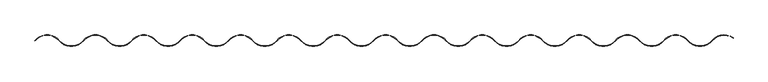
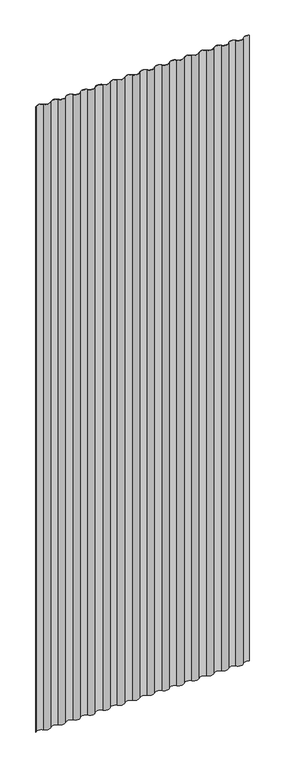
"""IFC4 building model written with IfcOpenShell, lengths in millimetres: plate geometry, HIANSA- H20.F08.001-CHAPA PERFILADA CUBIERTA - MO18 - Panel de Muro Cortina : -."""

from ifc_helpers import new_model, si_unit, point, frame_2d, origin, origin_with_axes, place, context, project, spatial, polyline, circle_curve, trimmed, segment, composite_curve, outline, extrude, source, transform, mapped, element, save


def plate_054f46e9(model_context):
    return source(origin(), model_context, "Body", "SweptSolid", [
        extrude(outline(composite_curve([segment(trimmed(circle_curve(frame_2d((-304.0000002, -7.4030474)), 25.4), [point((-323.2300002, 9.1911413))], [point((-284.7700002, 9.1911413))], False, "CARTESIAN"), True, "CONTINUOUS"), segment(trimmed(circle_curve(frame_2d((-266.0000002, 25.4)), 24.8), [point((-284.7700002, 9.1911413))], [point((-247.2300002, 9.1911413))], True, "CARTESIAN"), True, "CONTINUOUS"), segment(trimmed(circle_curve(frame_2d((-228.0000002, -7.4030474)), 25.4), [point((-247.2300002, 9.1911413))], [point((-208.7700002, 9.1911413))], False, "CARTESIAN"), True, "CONTINUOUS"), segment(trimmed(circle_curve(frame_2d((-190.0000002, 25.4)), 24.8), [point((-208.7700002, 9.1911413))], [point((-171.2300002, 9.1911413))], True, "CARTESIAN"), True, "CONTINUOUS"), segment(trimmed(circle_curve(frame_2d((-152.0000002, -7.4030474)), 25.4), [point((-171.2300002, 9.1911413))], [point((-132.7700002, 9.1911413))], False, "CARTESIAN"), True, "CONTINUOUS"), segment(trimmed(circle_curve(frame_2d((-114.0000002, 25.4)), 24.8), [point((-132.7700002, 9.1911413))], [point((-95.2300002, 9.1911413))], True, "CARTESIAN"), True, "CONTINUOUS"), segment(trimmed(circle_curve(frame_2d((-76.0000002, -7.4030474)), 25.4), [point((-95.2300002, 9.1911413))], [point((-56.7700002, 9.1911413))], False, "CARTESIAN"), True, "CONTINUOUS"), segment(trimmed(circle_curve(frame_2d((-38.0000002, 25.4)), 24.8), [point((-56.7700002, 9.1911413))], [point((-19.2300002, 9.1911413))], True, "CARTESIAN"), True, "CONTINUOUS"), segment(trimmed(circle_curve(frame_2d((-2e-07, -7.4030474)), 25.4), [point((-19.2300002, 9.1911413))], [point((19.2299998, 9.1911413))], False, "CARTESIAN"), True, "CONTINUOUS"), segment(trimmed(circle_curve(frame_2d((37.9999998, 25.4)), 24.8), [point((19.2299998, 9.1911413))], [point((56.7699998, 9.1911413))], True, "CARTESIAN"), True, "CONTINUOUS"), segment(trimmed(circle_curve(frame_2d((75.9999998, -7.4030474)), 25.4), [point((56.7699998, 9.1911413))], [point((95.2299998, 9.1911413))], False, "CARTESIAN"), True, "CONTINUOUS"), segment(trimmed(circle_curve(frame_2d((113.9999998, 25.4)), 24.8), [point((95.2299998, 9.1911413))], [point((132.7699998, 9.1911413))], True, "CARTESIAN"), True, "CONTINUOUS"), segment(trimmed(circle_curve(frame_2d((151.9999998, -7.4030474)), 25.4), [point((132.7699998, 9.1911413))], [point((171.2299998, 9.1911413))], False, "CARTESIAN"), True, "CONTINUOUS"), segment(trimmed(circle_curve(frame_2d((189.9999998, 25.4)), 24.8), [point((171.2299998, 9.1911413))], [point((208.7699998, 9.1911413))], True, "CARTESIAN"), True, "CONTINUOUS"), segment(trimmed(circle_curve(frame_2d((227.9999998, -7.4030474)), 25.4), [point((208.7699998, 9.1911413))], [point((247.2299998, 9.1911413))], False, "CARTESIAN"), True, "CONTINUOUS"), segment(trimmed(circle_curve(frame_2d((265.9999998, 25.4)), 24.8), [point((247.2299998, 9.1911413))], [point((284.7699998, 9.1911413))], True, "CARTESIAN"), True, "CONTINUOUS"), segment(trimmed(circle_curve(frame_2d((303.9999998, -7.4030474)), 25.4), [point((284.7699998, 9.1911413))], [point((323.2299998, 9.1911413))], False, "CARTESIAN"), True, "CONTINUOUS"), segment(trimmed(circle_curve(frame_2d((341.9999998, 25.4)), 24.8), [point((323.2299998, 9.1911413))], [point((360.7699998, 9.1911413))], True, "CARTESIAN"), True, "CONTINUOUS"), segment(trimmed(circle_curve(frame_2d((379.9999998, -7.4030474)), 25.4), [point((360.7699998, 9.1911413))], [point((399.2299998, 9.1911413))], False, "CARTESIAN"), True, "CONTINUOUS"), segment(trimmed(circle_curve(frame_2d((417.9999998, 25.4)), 24.8), [point((399.2299998, 9.1911413))], [point((436.7699998, 9.1911413))], True, "CARTESIAN"), True, "CONTINUOUS"), segment(trimmed(circle_curve(frame_2d((455.9999998, -7.4030474)), 25.4), [point((436.7699998, 9.1911413))], [point((475.2299998, 9.1911413))], False, "CARTESIAN"), True, "CONTINUOUS"), segment(trimmed(circle_curve(frame_2d((493.9999998, 25.4)), 24.8), [point((475.2299998, 9.1911413))], [point((512.7699998, 9.1911413))], True, "CARTESIAN"), True, "CONTINUOUS"), segment(trimmed(circle_curve(frame_2d((531.9999998, -7.4030474)), 25.4), [point((512.7699998, 9.1911413))], [point((546.0000002, 13.7903476))], False, "CARTESIAN"), True, "CONTINUOUS"), segment(polyline([(546.0000002, 13.7903476), (546.0000002, 13.0674189)]), True, "CONTINUOUS"), segment(trimmed(circle_curve(frame_2d((531.9999998, -7.4030474)), 24.8), [point((546.0000002, 13.0674189))], [point((513.2299998, 8.8058113))], True, "CARTESIAN"), True, "CONTINUOUS"), segment(trimmed(circle_curve(frame_2d((493.9999998, 25.4)), 25.4), [point((513.2299998, 8.8058113))], [point((474.7699998, 8.8058113))], False, "CARTESIAN"), True, "CONTINUOUS"), segment(trimmed(circle_curve(frame_2d((455.9999998, -7.4030474)), 24.8), [point((474.7699998, 8.8058113))], [point((437.2299998, 8.8058113))], True, "CARTESIAN"), True, "CONTINUOUS"), segment(trimmed(circle_curve(frame_2d((417.9999998, 25.4)), 25.4), [point((437.2299998, 8.8058113))], [point((398.7699998, 8.8058113))], False, "CARTESIAN"), True, "CONTINUOUS"), segment(trimmed(circle_curve(frame_2d((379.9999998, -7.4030474)), 24.8), [point((398.7699998, 8.8058113))], [point((361.2299998, 8.8058113))], True, "CARTESIAN"), True, "CONTINUOUS"), segment(trimmed(circle_curve(frame_2d((341.9999998, 25.4)), 25.4), [point((361.2299998, 8.8058113))], [point((322.7699998, 8.8058113))], False, "CARTESIAN"), True, "CONTINUOUS"), segment(trimmed(circle_curve(frame_2d((303.9999998, -7.4030474)), 24.8), [point((322.7699998, 8.8058113))], [point((285.2299998, 8.8058113))], True, "CARTESIAN"), True, "CONTINUOUS"), segment(trimmed(circle_curve(frame_2d((265.9999998, 25.4)), 25.4), [point((285.2299998, 8.8058113))], [point((246.7699998, 8.8058113))], False, "CARTESIAN"), True, "CONTINUOUS"), segment(trimmed(circle_curve(frame_2d((227.9999998, -7.4030474)), 24.8), [point((246.7699998, 8.8058113))], [point((209.2299998, 8.8058113))], True, "CARTESIAN"), True, "CONTINUOUS"), segment(trimmed(circle_curve(frame_2d((189.9999998, 25.4)), 25.4), [point((209.2299998, 8.8058113))], [point((170.7699998, 8.8058113))], False, "CARTESIAN"), True, "CONTINUOUS"), segment(trimmed(circle_curve(frame_2d((151.9999998, -7.4030474)), 24.8), [point((170.7699998, 8.8058113))], [point((133.2299998, 8.8058113))], True, "CARTESIAN"), True, "CONTINUOUS"), segment(trimmed(circle_curve(frame_2d((113.9999998, 25.4)), 25.4), [point((133.2299998, 8.8058113))], [point((94.7699998, 8.8058113))], False, "CARTESIAN"), True, "CONTINUOUS"), segment(trimmed(circle_curve(frame_2d((75.9999998, -7.4030474)), 24.8), [point((94.7699998, 8.8058113))], [point((57.2299998, 8.8058113))], True, "CARTESIAN"), True, "CONTINUOUS"), segment(trimmed(circle_curve(frame_2d((37.9999998, 25.4)), 25.4), [point((57.2299998, 8.8058113))], [point((18.7699998, 8.8058113))], False, "CARTESIAN"), True, "CONTINUOUS"), segment(trimmed(circle_curve(frame_2d((-2e-07, -7.4030474)), 24.8), [point((18.7699998, 8.8058113))], [point((-18.7700002, 8.8058113))], True, "CARTESIAN"), True, "CONTINUOUS"), segment(trimmed(circle_curve(frame_2d((-38.0000002, 25.4)), 25.4), [point((-18.7700002, 8.8058113))], [point((-57.2300002, 8.8058113))], False, "CARTESIAN"), True, "CONTINUOUS"), segment(trimmed(circle_curve(frame_2d((-76.0000002, -7.4030474)), 24.8), [point((-57.2300002, 8.8058113))], [point((-94.7700002, 8.8058113))], True, "CARTESIAN"), True, "CONTINUOUS"), segment(trimmed(circle_curve(frame_2d((-114.0000002, 25.4)), 25.4), [point((-94.7700002, 8.8058113))], [point((-133.2300002, 8.8058113))], False, "CARTESIAN"), True, "CONTINUOUS"), segment(trimmed(circle_curve(frame_2d((-152.0000002, -7.4030474)), 24.8), [point((-133.2300002, 8.8058113))], [point((-170.7700002, 8.8058113))], True, "CARTESIAN"), True, "CONTINUOUS"), segment(trimmed(circle_curve(frame_2d((-190.0000002, 25.4)), 25.4), [point((-170.7700002, 8.8058113))], [point((-209.2300002, 8.8058113))], False, "CARTESIAN"), True, "CONTINUOUS"), segment(trimmed(circle_curve(frame_2d((-228.0000002, -7.4030474)), 24.8), [point((-209.2300002, 8.8058113))], [point((-246.7700002, 8.8058113))], True, "CARTESIAN"), True, "CONTINUOUS"), segment(trimmed(circle_curve(frame_2d((-266.0000002, 25.4)), 25.4), [point((-246.7700002, 8.8058113))], [point((-285.2300002, 8.8058113))], False, "CARTESIAN"), True, "CONTINUOUS"), segment(trimmed(circle_curve(frame_2d((-304.0000002, -7.4030474)), 24.8), [point((-285.2300002, 8.8058113))], [point((-322.7700002, 8.8058113))], True, "CARTESIAN"), True, "CONTINUOUS"), segment(trimmed(circle_curve(frame_2d((-342.0000002, 25.4)), 25.4), [point((-322.7700002, 8.8058113))], [point((-361.2300002, 8.8058113))], False, "CARTESIAN"), True, "CONTINUOUS"), segment(trimmed(circle_curve(frame_2d((-380.0000002, -7.4030474)), 24.8), [point((-361.2300002, 8.8058113))], [point((-398.7700002, 8.8058113))], True, "CARTESIAN"), True, "CONTINUOUS"), segment(trimmed(circle_curve(frame_2d((-418.0000002, 25.4)), 25.4), [point((-398.7700002, 8.8058113))], [point((-437.2300002, 8.8058113))], False, "CARTESIAN"), True, "CONTINUOUS"), segment(trimmed(circle_curve(frame_2d((-456.0000002, -7.4030474)), 24.8), [point((-437.2300002, 8.8058113))], [point((-474.7700002, 8.8058113))], True, "CARTESIAN"), True, "CONTINUOUS"), segment(trimmed(circle_curve(frame_2d((-494.0000002, 25.4)), 25.4), [point((-474.7700002, 8.8058113))], [point((-513.2300002, 8.8058113))], False, "CARTESIAN"), True, "CONTINUOUS"), segment(trimmed(circle_curve(frame_2d((-532.0000002, -7.4030474)), 24.8), [point((-513.2300002, 8.8058113))], [point((-550.293813, 9.3413968))], True, "CARTESIAN"), True, "CONTINUOUS"), segment(polyline([(-550.293813, 9.3413968), (-551.2300002, 9.1911413)]), True, "CONTINUOUS"), segment(trimmed(circle_curve(frame_2d((-532.0000002, -7.4030474)), 25.4), [point((-551.2300002, 9.1911413))], [point((-512.7700002, 9.1911413))], False, "CARTESIAN"), True, "CONTINUOUS"), segment(trimmed(circle_curve(frame_2d((-494.0000002, 25.4)), 24.8), [point((-512.7700002, 9.1911413))], [point((-475.2300002, 9.1911413))], True, "CARTESIAN"), True, "CONTINUOUS"), segment(trimmed(circle_curve(frame_2d((-456.0000002, -7.4030474)), 25.4), [point((-475.2300002, 9.1911413))], [point((-436.7700002, 9.1911413))], False, "CARTESIAN"), True, "CONTINUOUS"), segment(trimmed(circle_curve(frame_2d((-418.0000002, 25.4)), 24.8), [point((-436.7700002, 9.1911413))], [point((-399.2300002, 9.1911413))], True, "CARTESIAN"), True, "CONTINUOUS"), segment(trimmed(circle_curve(frame_2d((-380.0000002, -7.4030474)), 25.4), [point((-399.2300002, 9.1911413))], [point((-360.7700002, 9.1911413))], False, "CARTESIAN"), True, "CONTINUOUS"), segment(trimmed(circle_curve(frame_2d((-342.0000002, 25.4)), 24.8), [point((-360.7700002, 9.1911413))], [point((-323.2300002, 9.1911413))], True, "CARTESIAN"), True, "CONTINUOUS")], self_intersect=False)), origin_with_axes(), (0.0, 0.0, 1.0), 3390.8509027),
    ])


if __name__ == "__main__":
    model = new_model("IFC4")
    model_context = context("Model", 3, world=origin())
    ifc_project = project(units=[si_unit("LENGTHUNIT", "METRE", prefix="MILLI")], contexts=[model_context])
    site = spatial("IfcSite", under=ifc_project)
    building = spatial("IfcBuilding", under=site)
    placement = place(None, origin())
    plate_shape = plate_054f46e9(model_context)
    element("IfcPlate", 1, ObjectType="HIANSA- H20.F08.001-CHAPA PERFILADA CUBIERTA - MO18 - Panel de Muro Cortina : -", at=placement, inside=building, context=model_context, shape_type="MappedRepresentation", body=[
        mapped(plate_shape, transform((0.0, 0.0, 0.0), x_axis=(1.0, 0.0, 0.0), y_axis=(0.0, 1.0, 0.0), z_axis=(0.0, 0.0, 1.0))),
    ])
    save(model, "model.ifc")
